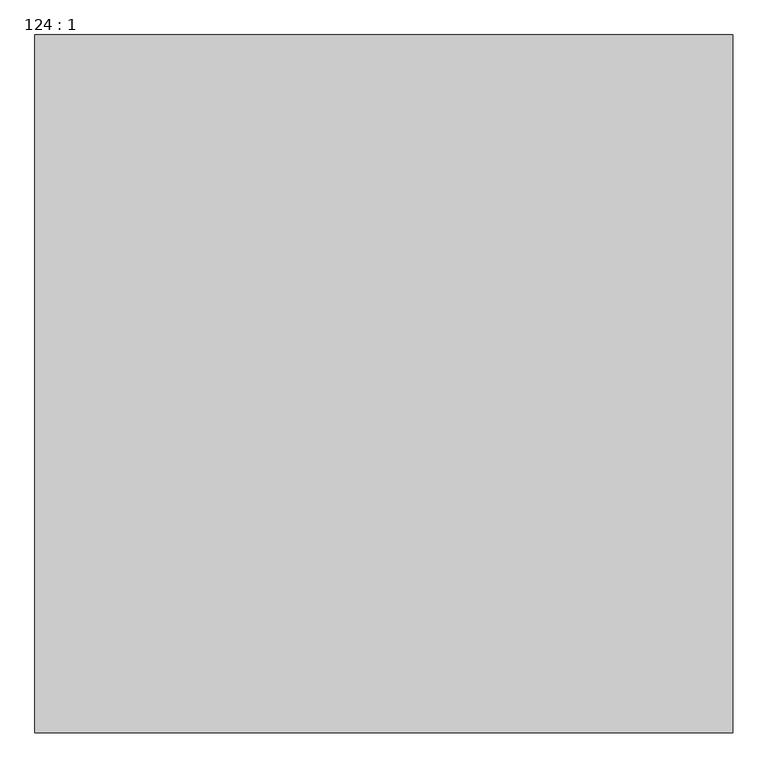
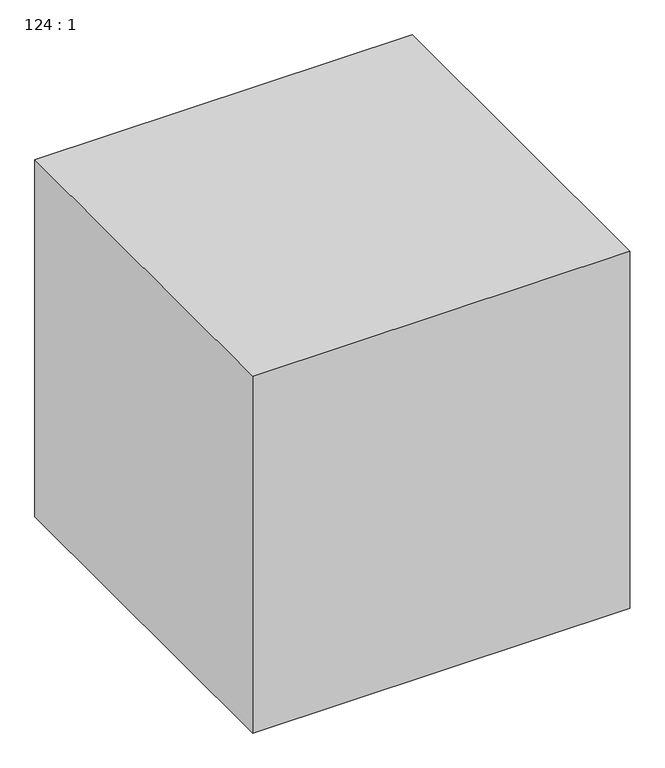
"""IFC4 building model written with IfcOpenShell, lengths in millimetres: proxy geometry, 124 : 1."""

from ifc_helpers import new_model, si_unit, origin, origin_with_axes, place, context, project, spatial, polyline, outline, extrude, source, transform, mapped, element, save


def proxy_124_1_e1c1178d(model_context):
    return source(origin(), model_context, "Body", "SweptSolid", [
        extrude(outline(polyline([(27692.0243292, 7335.2294472), (27692.0243292, 6335.2294472), (26692.0243292, 6335.2294472), (26692.0243292, 7335.2294472), (27692.0243292, 7335.2294472)])), origin_with_axes(), (0.0, 0.0, 1.0), 1000.0),
    ])


if __name__ == "__main__":
    model = new_model("IFC4")
    model_context = context("Model", 3, world=origin())
    ifc_project = project(units=[si_unit("LENGTHUNIT", "METRE", prefix="MILLI")], contexts=[model_context])
    site = spatial("IfcSite", under=ifc_project)
    building = spatial("IfcBuilding", under=site)
    placement = place(None, origin())
    proxy_124_1_shape = proxy_124_1_e1c1178d(model_context)
    element("IfcBuildingElementProxy", 1, Name="124 : 1", ObjectType="124 : 1", at=placement, inside=building, context=model_context, shape_type="MappedRepresentation", body=[
        mapped(proxy_124_1_shape, transform((0.0, 0.0, 0.0), x_axis=(1.0, 0.0, 0.0), y_axis=(0.0, 1.0, 0.0), z_axis=(0.0, 0.0, 1.0))),
    ])
    save(model, "model.ifc")
